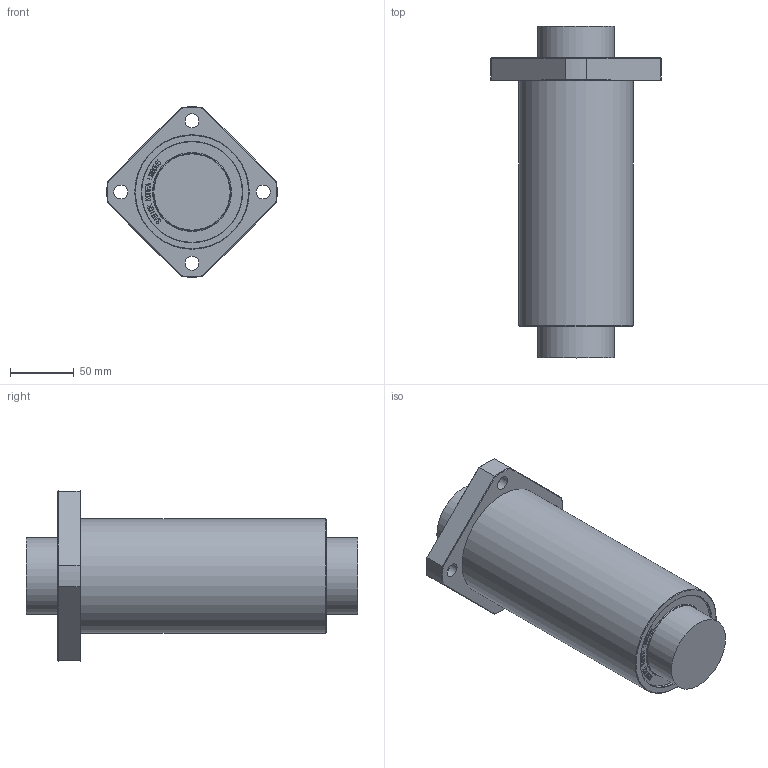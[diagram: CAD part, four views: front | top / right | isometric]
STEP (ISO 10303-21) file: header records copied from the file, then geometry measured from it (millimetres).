
FILE_DESCRIPTION(/* description */ (''),/* implementation_level */ '2;1');
FILE_NAME(/* name */ 'W:\(01) 2024년 홈페이지 CAD파일 최신화\LMEK_L\IPT\LMEK60LUU.stp',/* time_stamp */ '2025-01-25T11:02:27+09:00',/* author */ ('서우현'),/* organization */ (''),/* preprocessor_version */ 'ST-DEVELOPER v17.2',/* originating_system */ 'Autodesk Inventor 2019',/* authorisation */ '');
FILE_SCHEMA (('AUTOMOTIVE_DESIGN { 1 0 10303 214 3 1 1 }'));
Length unit declared in the file: millimetre
Products named in the file (1): LM5
Bounding box: 133.88 x 261 x 133.88 mm (x, y, z)
Volume: 1543903.1 mm3; surface area: 97479 mm2
Topology: 1 solids, 1 shells, 866 faces, 2426 edges, 1620 vertices
Faces by surface type: bspline 600, plane 234, cylinder 18, cone 12, torus 2
Full cylindrical faces by diameter (mm): 11 x4, 17.5 x4, 60 x2, 79.2 x2, 90 x2
Entity records: 29720 total; most frequent: CARTESIAN_POINT 11061, ORIENTED_EDGE 4852, EDGE_CURVE 2426, DIRECTION 1826, VERTEX_POINT 1620, B_SPLINE_CURVE_WITH_KNOTS 1200, LINE 1128, VECTOR 1128
